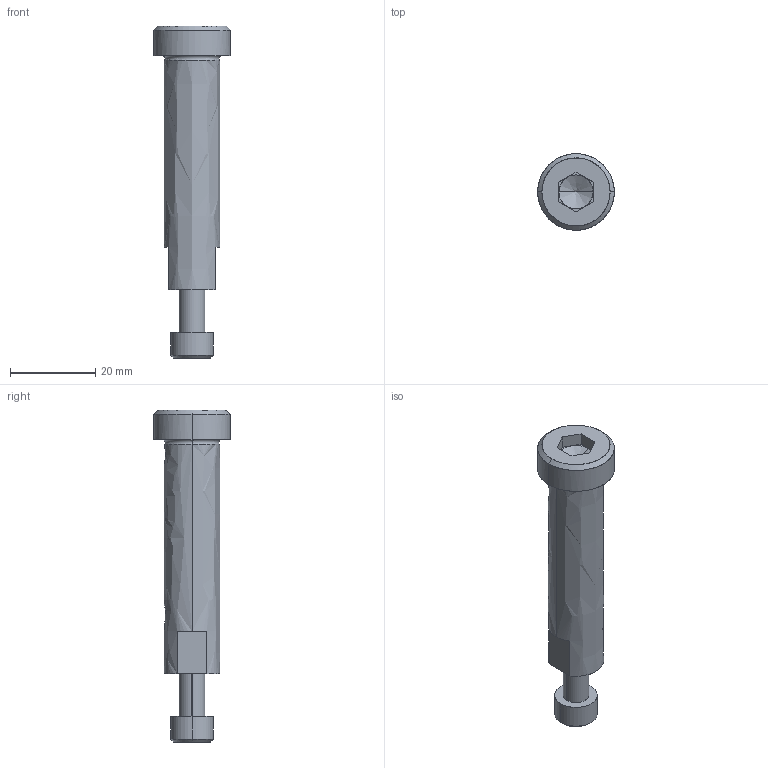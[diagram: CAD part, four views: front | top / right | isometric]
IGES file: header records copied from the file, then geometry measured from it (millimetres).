
Global section: file name: E:\UnigraphicsGraphicData\MISUMI_PRESS-PARTS\IGES\3d_sbt13-55_05081_r00.igs; native system: NX V5.0; preprocessor: UGS NX IGES V5.0; author: MISUMI; date: 20110105.162435; units: millimetre
Bounding box: 18 x 18 x 78 mm (x, y, z)
Surface area: 4379.4 mm2 (no closed solid volume)
Topology: 0 solids, 0 shells, 56 faces, 310 edges, 306 vertices
Faces by surface type: bspline 56
